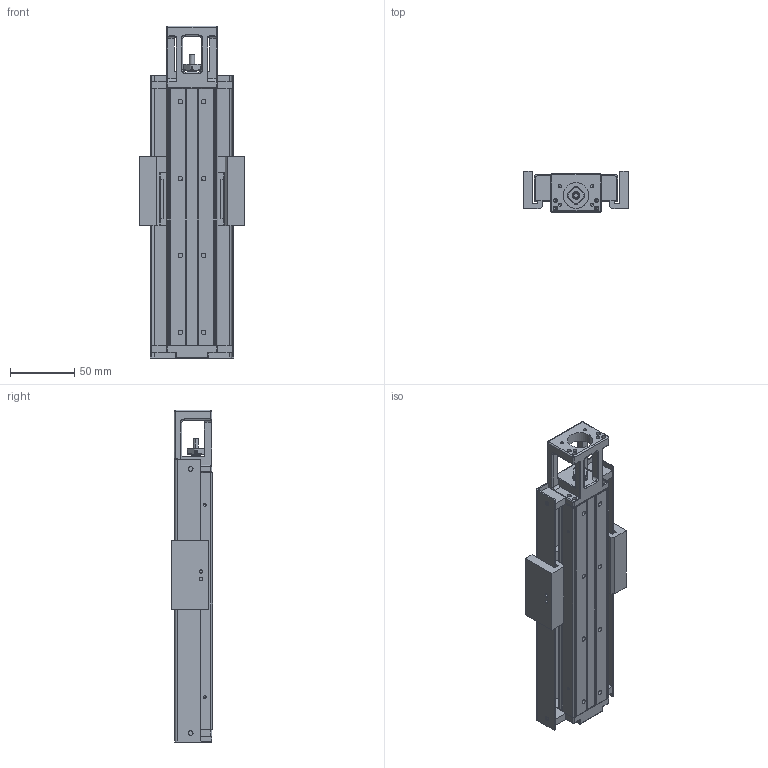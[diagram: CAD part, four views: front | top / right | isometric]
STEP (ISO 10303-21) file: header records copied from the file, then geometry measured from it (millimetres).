
FILE_DESCRIPTION (( 'STEP AP203' ), '1' );
FILE_NAME ('hkk40-200a1f0s.STEP', '2016-11-03T06:32:30', ( 'Windows' ), ( 'Microsoft' ), 'SwSTEP 2.0', 'SolidWorks 2016', '' );
FILE_SCHEMA (( 'CONFIG_CONTROL_DESIGN' ));
Length unit declared in the file: millimetre
Products named in the file (3): 掛极; 40賑怢郪; hkk40-200a1f0s
Assembly tree (2 placements, depth 2):
  hkk40-200a1f0s
    掛极
    40賑怢郪
Bounding box: 82 x 32 x 259 mm (x, y, z)
Volume: 190665.4 mm3; surface area: 125489 mm2
Topology: 17 solids, 31 shells, 1177 faces, 3096 edges, 1918 vertices
Faces by surface type: cylinder 449, plane 411, cone 186, bspline 126, sphere 3, torus 2
Entity records: 48595 total; most frequent: CARTESIAN_POINT 20660, ORIENTED_EDGE 5960, DIRECTION 5324, EDGE_CURVE 2980, VERTEX_POINT 1918, AXIS2_PLACEMENT_3D 1891, VECTOR 1542, LINE 1542
